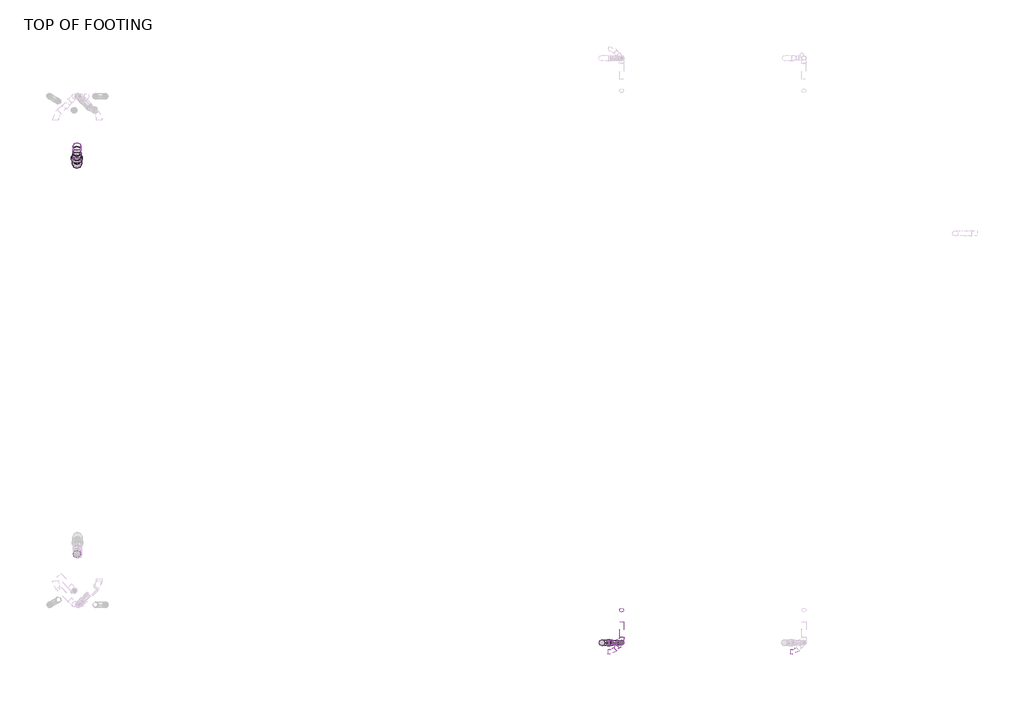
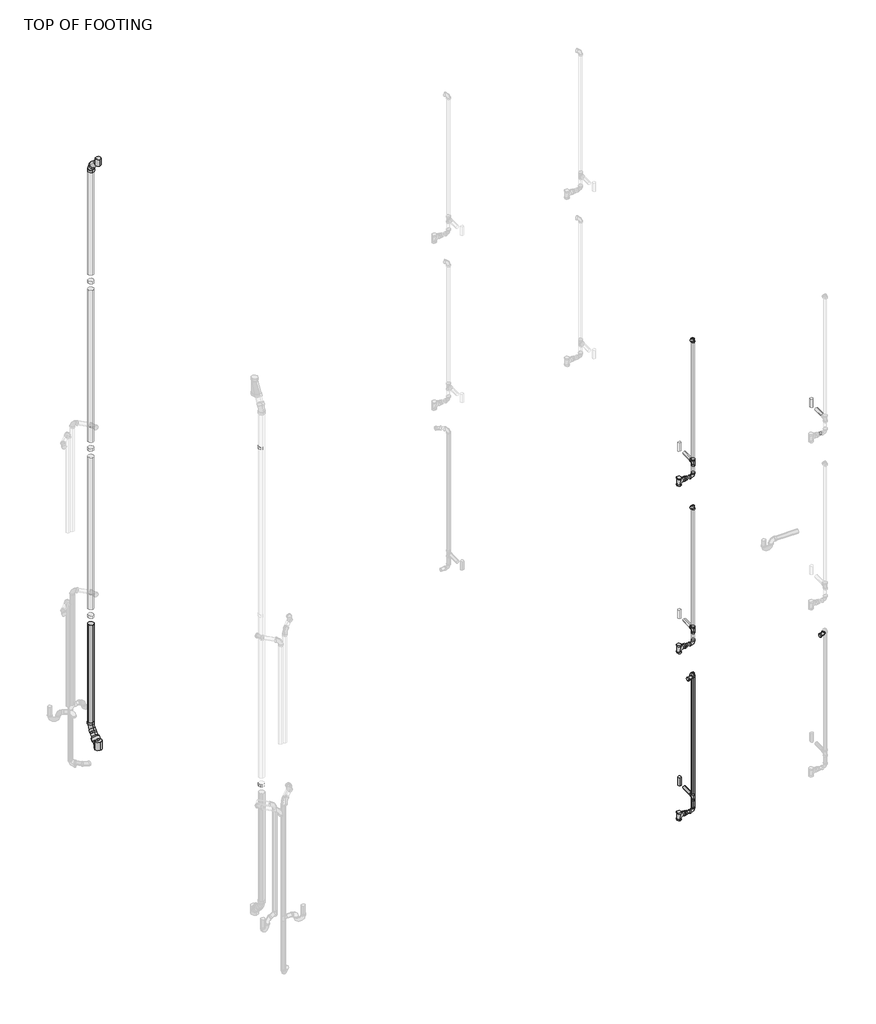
# One storey, part 3 of 8: 30 pipe segments, 22 pipe fittings.
"""IFC4 building model written with IfcOpenShell, lengths in millimetres."""

from ifc_helpers import new_model, si_unit, point, frame, frame_2d, origin, place, context, project, spatial, circle_curve, trimmed, segment, composite_curve, outline, extrude, transform, mapped, element, save
from components import bend_pvc_sch_40_dwv_standard_35af41d9, bend_pvc_sch_40_dwv_standard_e4da6302, bend_pvc_sch_40_dwv_standard_c28c2be1, bend_pvc_sch_40_dwv_standard_db659cf1, pipe_tee_copper_k_e3b6c8a8, pipe_tee_copper_k_0c7b4938, reducer_pvc_sch_40_dwv_standard_b23fa098, reducer_pvc_sch_40_dwv_standard_f0f0b247, tee_sanitary_pvc_sch_40_dwv_standard_3578d342, tee_sanitary_pvc_sch_40_dwv_standard_32d7fc6d

model = new_model("IFC4")

# Units and contexts
model_context = context("Model", 3, world=origin())
ifc_project = project(units=[si_unit("LENGTHUNIT", "METRE", prefix="MILLI")], contexts=[model_context])

# Site, building, storey
site = spatial("IfcSite", under=ifc_project)
building = spatial("IfcBuilding", under=site)
storey = spatial("IfcBuildingStorey", under=building, Name="TOP OF FOOTING", Elevation=-762.0)

# Pipe fittings
placement = place(None, origin())
bend_pvc_sch_40_dwv_standard_shape = bend_pvc_sch_40_dwv_standard_35af41d9(model_context)
element("IfcPipeFitting", 1, ObjectType="Bend - PVC - Sch 40 - DWV : Standard", at=placement, inside=storey, context=model_context, shape_type="MappedRepresentation", body=[
    mapped(bend_pvc_sch_40_dwv_standard_shape, transform((8467.5209875, 2089.7012881, 337.3617935), x_axis=(0.0, 0.0, -1.0), y_axis=(1.0, 0.0, 0.0), z_axis=(0.0, -1.0, 0.0))),
])
element("IfcPipeFitting", 2, ObjectType="Bend - PVC - Sch 40 - DWV : Standard", at=placement, inside=storey, context=model_context, shape_type="MappedRepresentation", body=[
    mapped(bend_pvc_sch_40_dwv_standard_shape, transform((8467.5209875, 2089.7012881, 3182.1617935), x_axis=(0.0, 0.0, -1.0), y_axis=(1.0, 0.0, 0.0), z_axis=(0.0, -1.0, 0.0))),
])
element("IfcPipeFitting", 3, ObjectType="Bend - PVC - Sch 40 - DWV : Standard", at=placement, inside=storey, context=model_context, shape_type="MappedRepresentation", body=[
    mapped(bend_pvc_sch_40_dwv_standard_shape, transform((8467.5209875, 2089.7012881, 6026.9617935), x_axis=(0.0, 0.0, -1.0), y_axis=(1.0, 0.0, 0.0), z_axis=(0.0, -1.0, 0.0))),
])
bend_pvc_sch_40_dwv_standard_2_shape = bend_pvc_sch_40_dwv_standard_e4da6302(model_context)
element("IfcPipeFitting", 4, ObjectType="Bend - PVC - Sch 40 - DWV : Standard", at=placement, inside=storey, context=model_context, shape_type="MappedRepresentation", body=[
    mapped(bend_pvc_sch_40_dwv_standard_2_shape, transform((8467.5337024, 2089.6991493, 2682.6265087), x_axis=(0.0, 0.0, 1.0), y_axis=(0.7070876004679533, 0.7071259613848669, 0.0), z_axis=(-0.7071259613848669, 0.7070876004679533, 0.0))),
])
element("IfcPipeFitting", 5, ObjectType="Bend - PVC - Sch 40 - DWV : Standard", at=placement, inside=storey, context=model_context, shape_type="MappedRepresentation", body=[
    mapped(bend_pvc_sch_40_dwv_standard_2_shape, transform((8467.5337024, 2089.6991493, 5527.4265087), x_axis=(0.0, 0.0, 1.0), y_axis=(0.7070876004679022, 0.7071259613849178, 0.0), z_axis=(-0.7071259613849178, 0.7070876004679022, 0.0))),
])
element("IfcPipeFitting", 6, ObjectType="Bend - PVC - Sch 40 - DWV : Standard", at=placement, inside=storey, context=model_context, shape_type="MappedRepresentation", body=[
    mapped(bend_pvc_sch_40_dwv_standard_2_shape, transform((8467.5302501, 2089.699846, 8371.9619664), x_axis=(0.0, 0.0, 1.0), y_axis=(0.7070876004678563, 0.7071259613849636, 0.0), z_axis=(-0.7071259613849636, 0.7070876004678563, 0.0))),
])
bend_pvc_sch_40_dwv_standard_3_shape = bend_pvc_sch_40_dwv_standard_c28c2be1(model_context)
element("IfcPipeFitting", 7, ObjectType="Bend - PVC - Sch 40 - DWV : Standard", at=placement, inside=storey, context=model_context, shape_type="MappedRepresentation", body=[
    mapped(bend_pvc_sch_40_dwv_standard_3_shape, transform((8359.7743364, 1981.9339371, 2683.7490021), x_axis=(-0.7070684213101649, -0.7071067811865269, 0.007365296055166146), y_axis=(0.7070684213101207, -0.7071067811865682, -0.007365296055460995), z_axis=(0.01041610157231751, 0.0, 0.9999457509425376))),
])
element("IfcPipeFitting", 8, ObjectType="Bend - PVC - Sch 40 - DWV : Standard", at=placement, inside=storey, context=model_context, shape_type="MappedRepresentation", body=[
    mapped(bend_pvc_sch_40_dwv_standard_3_shape, transform((10488.1493364, 1981.9339371, 2683.7490021), x_axis=(-0.7070684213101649, -0.7071067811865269, 0.007365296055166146), y_axis=(0.7070684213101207, -0.7071067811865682, -0.007365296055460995), z_axis=(0.01041610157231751, 0.0, 0.9999457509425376))),
])
bend_pvc_sch_40_dwv_standard_4_shape = bend_pvc_sch_40_dwv_standard_db659cf1(model_context)
element("IfcPipeFitting", 9, ObjectType="Bend - PVC - Sch 40 - DWV : Standard", at=placement, inside=storey, context=model_context, shape_type="MappedRepresentation", body=[
    mapped(bend_pvc_sch_40_dwv_standard_4_shape, transform((2111.7559337, 7876.8887644, 10015.6880691), x_axis=(0.0, 0.0, 1.0), y_axis=(0.0, -1.0, 0.0), z_axis=(1.0, 0.0, 0.0))),
])
element("IfcPipeFitting", 10, ObjectType="Bend - PVC - Sch 40 - DWV : Standard", at=placement, inside=storey, context=model_context, shape_type="MappedRepresentation", body=[
    mapped(bend_pvc_sch_40_dwv_standard_4_shape, transform((2111.7559337, 7876.8887644, 488.9445189), x_axis=(0.0, 0.0, -1.0), y_axis=(0.0, -1.0, 0.0), z_axis=(-1.0, 0.0, 0.0))),
])
pipe_tee_copper_k_shape = pipe_tee_copper_k_e3b6c8a8(model_context)
element("IfcPipeFitting", 11, ObjectType="Pipe Tee : Copper- K", at=placement, inside=storey, context=model_context, shape_type="MappedRepresentation", body=[
    mapped(pipe_tee_copper_k_shape, transform((2111.7559337, 7679.2137881, 10213.3630455), x_axis=(0.0, 0.0, 1.0), y_axis=(0.0, -1.0, 0.0), z_axis=(1.0, 0.0, 0.0))),
])
pipe_tee_copper_k_2_shape = pipe_tee_copper_k_0c7b4938(model_context)
element("IfcPipeFitting", 12, ObjectType="Pipe Tee : Copper- K", at=placement, inside=storey, context=model_context, shape_type="MappedRepresentation", body=[
    mapped(pipe_tee_copper_k_2_shape, transform((2111.7565355, 7679.2137881, 291.2695425), x_axis=(-6.123351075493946e-08, 0.0, 0.9999999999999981), y_axis=(-6.12335107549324e-08, -0.9999999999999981, 0.0), z_axis=(0.9999999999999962, -6.123351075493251e-08, 6.123351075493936e-08))),
])
reducer_pvc_sch_40_dwv_standard_shape = reducer_pvc_sch_40_dwv_standard_b23fa098(model_context)
element("IfcPipeFitting", 13, ObjectType="Reducer - PVC - Sch 40 - DWV : Standard", at=placement, inside=storey, context=model_context, shape_type="MappedRepresentation", body=[
    mapped(reducer_pvc_sch_40_dwv_standard_shape, transform((8316.7859401, 2089.7012881, 337.3617935), x_axis=(1.0, 0.0, 0.0), y_axis=(0.0, 1.0, 0.0), z_axis=(0.0, 0.0, 1.0))),
])
element("IfcPipeFitting", 14, ObjectType="Reducer - PVC - Sch 40 - DWV : Standard", at=placement, inside=storey, context=model_context, shape_type="MappedRepresentation", body=[
    mapped(reducer_pvc_sch_40_dwv_standard_shape, transform((8316.7859401, 2089.7012881, 3182.1617935), x_axis=(1.0, 0.0, 0.0), y_axis=(0.0, 1.0, 0.0), z_axis=(0.0, 0.0, 1.0))),
])
element("IfcPipeFitting", 15, ObjectType="Reducer - PVC - Sch 40 - DWV : Standard", at=placement, inside=storey, context=model_context, shape_type="MappedRepresentation", body=[
    mapped(reducer_pvc_sch_40_dwv_standard_shape, transform((8316.7859401, 2089.7012881, 6026.9617935), x_axis=(1.0, 0.0, 0.0), y_axis=(0.0, 1.0, 0.0), z_axis=(0.0, 0.0, 1.0))),
])
reducer_pvc_sch_40_dwv_standard_2_shape = reducer_pvc_sch_40_dwv_standard_f0f0b247(model_context)
element("IfcPipeFitting", 16, ObjectType="Reducer - PVC - Sch 40 - DWV : Standard", at=placement, inside=storey, context=model_context, shape_type="MappedRepresentation", body=[
    mapped(reducer_pvc_sch_40_dwv_standard_2_shape, transform((2111.7565355, 7727.4826647, 339.5384191), x_axis=(0.0, 0.7071067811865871, 0.7071067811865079), y_axis=(-0.9999999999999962, 6.12335121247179e-08, -6.123351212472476e-08), z_axis=(-8.659726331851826e-08, -0.7071067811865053, 0.7071067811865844))),
])
tee_sanitary_pvc_sch_40_dwv_standard_shape = tee_sanitary_pvc_sch_40_dwv_standard_3578d342(model_context)
element("IfcPipeFitting", 17, ObjectType="Tee Sanitary - PVC - Sch 40 - DWV : Standard", at=placement, inside=storey, context=model_context, shape_type="MappedRepresentation", body=[
    mapped(tee_sanitary_pvc_sch_40_dwv_standard_shape, transform((8467.5209875, 2089.7012881, 6267.6170389), x_axis=(0.0, 0.0, 1.0), y_axis=(0.0, 1.0, 0.0), z_axis=(-1.0, 0.0, 0.0))),
])
element("IfcPipeFitting", 18, ObjectType="Tee Sanitary - PVC - Sch 40 - DWV : Standard", at=placement, inside=storey, context=model_context, shape_type="MappedRepresentation", body=[
    mapped(tee_sanitary_pvc_sch_40_dwv_standard_shape, transform((8467.5209875, 2089.7012881, 3422.8170389), x_axis=(0.0, 0.0, 1.0), y_axis=(0.0, 1.0, 0.0), z_axis=(-1.0, 0.0, 0.0))),
])
element("IfcPipeFitting", 19, ObjectType="Tee Sanitary - PVC - Sch 40 - DWV : Standard", at=placement, inside=storey, context=model_context, shape_type="MappedRepresentation", body=[
    mapped(tee_sanitary_pvc_sch_40_dwv_standard_shape, transform((8467.5209875, 2089.7012881, 578.0170389), x_axis=(0.0, 0.0, 1.0), y_axis=(0.0, 1.0, 0.0), z_axis=(-1.0, 0.0, 0.0))),
])
tee_sanitary_pvc_sch_40_dwv_standard_2_shape = tee_sanitary_pvc_sch_40_dwv_standard_32d7fc6d(model_context)
element("IfcPipeFitting", 20, ObjectType="Tee Sanitary - PVC - Sch 40 - DWV : Standard", at=placement, inside=storey, context=model_context, shape_type="MappedRepresentation", body=[
    mapped(tee_sanitary_pvc_sch_40_dwv_standard_2_shape, transform((8238.7396365, 2089.8941393, 337.3617935), x_axis=(0.0, 0.0, 1.0), y_axis=(1.0, 0.0, 0.0), z_axis=(0.0, 1.0, 0.0))),
])
element("IfcPipeFitting", 21, ObjectType="Tee Sanitary - PVC - Sch 40 - DWV : Standard", at=placement, inside=storey, context=model_context, shape_type="MappedRepresentation", body=[
    mapped(tee_sanitary_pvc_sch_40_dwv_standard_2_shape, transform((8238.7396365, 2089.8941393, 3182.1617935), x_axis=(0.0, 0.0, 1.0), y_axis=(1.0, 0.0, 0.0), z_axis=(0.0, 1.0, 0.0))),
])
element("IfcPipeFitting", 22, ObjectType="Tee Sanitary - PVC - Sch 40 - DWV : Standard", at=placement, inside=storey, context=model_context, shape_type="MappedRepresentation", body=[
    mapped(tee_sanitary_pvc_sch_40_dwv_standard_2_shape, transform((8238.7396365, 2089.8941393, 6026.9617935), x_axis=(0.0, 0.0, 1.0), y_axis=(1.0, 0.0, 0.0), z_axis=(0.0, 1.0, 0.0))),
])

# Pipe segments
element("IfcPipeSegment", 23, ObjectType="PVC - SAN/STORM", at=placement, inside=storey, context=model_context, shape_type="SweptSolid", body=[
    extrude(outline(composite_curve([segment(trimmed(circle_curve(frame_2d((0.0, -24.13)), 24.13), [point((-24.13, -24.13))], [point((0.0, 0.0))], False, "CARTESIAN"), True, "CONTINUOUS"), segment(trimmed(circle_curve(frame_2d((0.0, -24.13)), 24.13), [point((0.0, 0.0))], [point((24.13, -24.13))], False, "CARTESIAN"), True, "CONTINUOUS"), segment(trimmed(circle_curve(frame_2d((0.0, -24.13)), 24.13), [point((24.13, -24.13))], [point((0.0, -48.2600001))], False, "CARTESIAN"), True, "CONTINUOUS"), segment(trimmed(circle_curve(frame_2d((0.0, -24.13)), 24.13), [point((0.0, -48.2600001))], [point((-24.13, -24.13))], False, "CARTESIAN"), True, "CONTINUOUS")], self_intersect=False)), frame((8467.5209875, 2151.8490706, 6244.1331025), z_axis=(0.0, 0.9999457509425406, 0.010416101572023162), x_axis=(1.0, 0.0, 0.0)), (0.0, 0.0, 1.0), 182.6011639),
])
element("IfcPipeSegment", 24, ObjectType="PVC - SAN/STORM", at=placement, inside=storey, context=model_context, shape_type="SweptSolid", body=[
    extrude(outline(composite_curve([segment(trimmed(circle_curve(frame_2d((8467.5209875, 2469.1137881)), 24.13), [point((8443.3909875, 2469.1137881))], [point((8467.5209875, 2493.2437881))], False, "CARTESIAN"), True, "CONTINUOUS"), segment(trimmed(circle_curve(frame_2d((8467.5209875, 2469.1137881)), 24.13), [point((8467.5209875, 2493.2437881))], [point((8491.6509875, 2469.1137881))], False, "CARTESIAN"), True, "CONTINUOUS"), segment(trimmed(circle_curve(frame_2d((8467.5209875, 2469.1137881)), 24.13), [point((8491.6509875, 2469.1137881))], [point((8467.5209875, 2444.9837881))], False, "CARTESIAN"), True, "CONTINUOUS"), segment(trimmed(circle_curve(frame_2d((8467.5209875, 2469.1137881)), 24.13), [point((8467.5209875, 2444.9837881))], [point((8443.3909875, 2469.1137881))], False, "CARTESIAN"), True, "CONTINUOUS")], self_intersect=False)), frame((0.0, 0.0, 6225.7010858), z_axis=(0.0, 0.0, 1.0), x_axis=(1.0, 0.0, 0.0)), (0.0, 0.0, 1.0), 139.7),
])
element("IfcPipeSegment", 25, ObjectType="PVC - SAN/STORM", at=placement, inside=storey, context=model_context, shape_type="SweptSolid", body=[
    extrude(outline(composite_curve([segment(trimmed(circle_curve(frame_2d((2089.7012881, 6026.9617935)), 24.13), [point((2113.8312881, 6026.9617935))], [point((2089.7012881, 6002.8317935))], False, "CARTESIAN"), True, "CONTINUOUS"), segment(trimmed(circle_curve(frame_2d((2089.7012881, 6026.9617935)), 24.13), [point((2089.7012881, 6002.8317935))], [point((2065.5712881, 6026.9617935))], False, "CARTESIAN"), True, "CONTINUOUS"), segment(trimmed(circle_curve(frame_2d((2089.7012881, 6026.9617935)), 24.13), [point((2065.5712881, 6026.9617935))], [point((2089.7012881, 6051.0917935))], False, "CARTESIAN"), True, "CONTINUOUS"), segment(trimmed(circle_curve(frame_2d((2089.7012881, 6026.9617935)), 24.13), [point((2089.7012881, 6051.0917935))], [point((2113.8312881, 6026.9617935))], False, "CARTESIAN"), True, "CONTINUOUS")], self_intersect=False)), frame((8366.7731401, 0.0, 0.0), z_axis=(1.0, 0.0, 0.0), x_axis=(0.0, 1.0, 0.0)), (0.0, 0.0, 1.0), 38.8480474),
])
element("IfcPipeSegment", 26, ObjectType="PVC - SAN/STORM", at=placement, inside=storey, context=model_context, shape_type="SweptSolid", body=[
    extrude(outline(composite_curve([segment(trimmed(circle_curve(frame_2d((8467.5209875, 2089.7012881)), 24.13), [point((8491.6509875, 2089.7012881))], [point((8467.5209875, 2065.5712881))], False, "CARTESIAN"), True, "CONTINUOUS"), segment(trimmed(circle_curve(frame_2d((8467.5209875, 2089.7012881)), 24.13), [point((8467.5209875, 2065.5712881))], [point((8443.3909875, 2089.7012881))], False, "CARTESIAN"), True, "CONTINUOUS"), segment(trimmed(circle_curve(frame_2d((8467.5209875, 2089.7012881)), 24.13), [point((8443.3909875, 2089.7012881))], [point((8467.5209875, 2113.8312881))], False, "CARTESIAN"), True, "CONTINUOUS"), segment(trimmed(circle_curve(frame_2d((8467.5209875, 2089.7012881)), 24.13), [point((8467.5209875, 2113.8312881))], [point((8491.6509875, 2089.7012881))], False, "CARTESIAN"), True, "CONTINUOUS")], self_intersect=False)), frame((0.0, 0.0, 6088.8615935), z_axis=(0.0, 0.0, 1.0), x_axis=(1.0, 0.0, 0.0)), (0.0, 0.0, 1.0), 116.8556454),
])
element("IfcPipeSegment", 27, ObjectType="PVC - SAN/STORM", at=placement, inside=storey, context=model_context, shape_type="SweptSolid", body=[
    extrude(outline(composite_curve([segment(trimmed(circle_curve(frame_2d((0.0, 24.13)), 24.13), [point((-24.13, 24.13))], [point((0.0, 48.26))], False, "CARTESIAN"), True, "CONTINUOUS"), segment(trimmed(circle_curve(frame_2d((0.0, 24.13)), 24.13), [point((0.0, 48.26))], [point((24.13, 24.13))], False, "CARTESIAN"), True, "CONTINUOUS"), segment(trimmed(circle_curve(frame_2d((0.0, 24.13)), 24.13), [point((24.13, 24.13))], [point((0.0, 0.0))], False, "CARTESIAN"), True, "CONTINUOUS"), segment(trimmed(circle_curve(frame_2d((0.0, 24.13)), 24.13), [point((0.0, 0.0))], [point((-24.13, 24.13))], False, "CARTESIAN"), True, "CONTINUOUS")], self_intersect=False)), frame((8467.5209875, 2065.5712881, 6313.8111829), z_axis=(4.640019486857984e-06, -7.223967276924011e-07, 0.9999999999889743), x_axis=(0.9999999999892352, 3.3519853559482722e-12, -4.640019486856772e-06)), (0.0, 0.0, 1.0), 1996.2509661),
])
element("IfcPipeSegment", 28, ObjectType="PVC - SAN/STORM", at=placement, inside=storey, context=model_context, shape_type="SweptSolid", body=[
    extrude(outline(composite_curve([segment(trimmed(circle_curve(frame_2d((0.0, -24.13)), 24.13), [point((-24.13, -24.13))], [point((0.0, 0.0))], False, "CARTESIAN"), True, "CONTINUOUS"), segment(trimmed(circle_curve(frame_2d((0.0, -24.13)), 24.13), [point((0.0, 0.0))], [point((24.13, -24.13))], False, "CARTESIAN"), True, "CONTINUOUS"), segment(trimmed(circle_curve(frame_2d((0.0, -24.13)), 24.13), [point((24.13, -24.13))], [point((0.0, -48.2600001))], False, "CARTESIAN"), True, "CONTINUOUS"), segment(trimmed(circle_curve(frame_2d((0.0, -24.13)), 24.13), [point((0.0, -48.2600001))], [point((-24.13, -24.13))], False, "CARTESIAN"), True, "CONTINUOUS")], self_intersect=False)), frame((8467.5209875, 2151.8490706, 3399.3331025), z_axis=(0.0, 0.9999457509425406, 0.010416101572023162), x_axis=(1.0, 0.0, 0.0)), (0.0, 0.0, 1.0), 182.6011639),
])
element("IfcPipeSegment", 29, ObjectType="PVC - SAN/STORM", at=placement, inside=storey, context=model_context, shape_type="SweptSolid", body=[
    extrude(outline(composite_curve([segment(trimmed(circle_curve(frame_2d((8467.5209875, 2469.1137881)), 24.13), [point((8443.3909875, 2469.1137881))], [point((8467.5209875, 2493.2437881))], False, "CARTESIAN"), True, "CONTINUOUS"), segment(trimmed(circle_curve(frame_2d((8467.5209875, 2469.1137881)), 24.13), [point((8467.5209875, 2493.2437881))], [point((8491.6509875, 2469.1137881))], False, "CARTESIAN"), True, "CONTINUOUS"), segment(trimmed(circle_curve(frame_2d((8467.5209875, 2469.1137881)), 24.13), [point((8491.6509875, 2469.1137881))], [point((8467.5209875, 2444.9837881))], False, "CARTESIAN"), True, "CONTINUOUS"), segment(trimmed(circle_curve(frame_2d((8467.5209875, 2469.1137881)), 24.13), [point((8467.5209875, 2444.9837881))], [point((8443.3909875, 2469.1137881))], False, "CARTESIAN"), True, "CONTINUOUS")], self_intersect=False)), frame((0.0, 0.0, 3380.9010858), z_axis=(0.0, 0.0, 1.0), x_axis=(1.0, 0.0, 0.0)), (0.0, 0.0, 1.0), 139.7),
])
element("IfcPipeSegment", 30, ObjectType="PVC - SAN/STORM", at=placement, inside=storey, context=model_context, shape_type="SweptSolid", body=[
    extrude(outline(composite_curve([segment(trimmed(circle_curve(frame_2d((2089.7012881, 3182.1617935)), 24.13), [point((2113.8312881, 3182.1617935))], [point((2089.7012881, 3158.0317935))], False, "CARTESIAN"), True, "CONTINUOUS"), segment(trimmed(circle_curve(frame_2d((2089.7012881, 3182.1617935)), 24.13), [point((2089.7012881, 3158.0317935))], [point((2065.5712881, 3182.1617935))], False, "CARTESIAN"), True, "CONTINUOUS"), segment(trimmed(circle_curve(frame_2d((2089.7012881, 3182.1617935)), 24.13), [point((2065.5712881, 3182.1617935))], [point((2089.7012881, 3206.2917935))], False, "CARTESIAN"), True, "CONTINUOUS"), segment(trimmed(circle_curve(frame_2d((2089.7012881, 3182.1617935)), 24.13), [point((2089.7012881, 3206.2917935))], [point((2113.8312881, 3182.1617935))], False, "CARTESIAN"), True, "CONTINUOUS")], self_intersect=False)), frame((8366.7731401, 0.0, 0.0), z_axis=(1.0, 0.0, 0.0), x_axis=(0.0, 1.0, 0.0)), (0.0, 0.0, 1.0), 38.8480474),
])
element("IfcPipeSegment", 31, ObjectType="PVC - SAN/STORM", at=placement, inside=storey, context=model_context, shape_type="SweptSolid", body=[
    extrude(outline(composite_curve([segment(trimmed(circle_curve(frame_2d((8467.5209875, 2089.7012881)), 24.13), [point((8491.6509875, 2089.7012881))], [point((8467.5209875, 2065.5712881))], False, "CARTESIAN"), True, "CONTINUOUS"), segment(trimmed(circle_curve(frame_2d((8467.5209875, 2089.7012881)), 24.13), [point((8467.5209875, 2065.5712881))], [point((8443.3909875, 2089.7012881))], False, "CARTESIAN"), True, "CONTINUOUS"), segment(trimmed(circle_curve(frame_2d((8467.5209875, 2089.7012881)), 24.13), [point((8443.3909875, 2089.7012881))], [point((8467.5209875, 2113.8312881))], False, "CARTESIAN"), True, "CONTINUOUS"), segment(trimmed(circle_curve(frame_2d((8467.5209875, 2089.7012881)), 24.13), [point((8467.5209875, 2113.8312881))], [point((8491.6509875, 2089.7012881))], False, "CARTESIAN"), True, "CONTINUOUS")], self_intersect=False)), frame((0.0, 0.0, 3244.0615935), z_axis=(0.0, 0.0, 1.0), x_axis=(1.0, 0.0, 0.0)), (0.0, 0.0, 1.0), 116.8556454),
])
element("IfcPipeSegment", 32, ObjectType="PVC - SAN/STORM", at=placement, inside=storey, context=model_context, shape_type="SweptSolid", body=[
    extrude(outline(composite_curve([segment(trimmed(circle_curve(frame_2d((0.0, 24.13)), 24.13), [point((-24.13, 24.13))], [point((0.0, 48.26))], False, "CARTESIAN"), True, "CONTINUOUS"), segment(trimmed(circle_curve(frame_2d((0.0, 24.13)), 24.13), [point((0.0, 48.26))], [point((24.13, 24.13))], False, "CARTESIAN"), True, "CONTINUOUS"), segment(trimmed(circle_curve(frame_2d((0.0, 24.13)), 24.13), [point((24.13, 24.13))], [point((0.0, 0.0))], False, "CARTESIAN"), True, "CONTINUOUS"), segment(trimmed(circle_curve(frame_2d((0.0, 24.13)), 24.13), [point((0.0, 0.0))], [point((-24.13, 24.13))], False, "CARTESIAN"), True, "CONTINUOUS")], self_intersect=False)), frame((8467.5209875, 2065.5712881, 3469.0111745), z_axis=(6.368583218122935e-06, -1.0712312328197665e-06, 0.9999999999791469), x_axis=(0.9999999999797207, 6.822098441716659e-12, -6.368583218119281e-06)), (0.0, 0.0, 1.0), 1996.5155084),
])
element("IfcPipeSegment", 33, ObjectType="PVC - SAN/STORM", at=placement, inside=storey, context=model_context, shape_type="SweptSolid", body=[
    extrude(outline(composite_curve([segment(trimmed(circle_curve(frame_2d((0.0, -24.13)), 24.13), [point((-24.13, -24.13))], [point((0.0, 0.0))], False, "CARTESIAN"), True, "CONTINUOUS"), segment(trimmed(circle_curve(frame_2d((0.0, -24.13)), 24.13), [point((0.0, 0.0))], [point((24.13, -24.13))], False, "CARTESIAN"), True, "CONTINUOUS"), segment(trimmed(circle_curve(frame_2d((0.0, -24.13)), 24.13), [point((24.13, -24.13))], [point((0.0, -48.2600001))], False, "CARTESIAN"), True, "CONTINUOUS"), segment(trimmed(circle_curve(frame_2d((0.0, -24.13)), 24.13), [point((0.0, -48.2600001))], [point((-24.13, -24.13))], False, "CARTESIAN"), True, "CONTINUOUS")], self_intersect=False)), frame((8467.5209875, 2151.8490706, 554.5331025), z_axis=(0.0, 0.9999457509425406, 0.010416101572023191), x_axis=(1.0, 0.0, 0.0)), (0.0, 0.0, 1.0), 182.6011639),
])
element("IfcPipeSegment", 34, ObjectType="PVC - SAN/STORM", at=placement, inside=storey, context=model_context, shape_type="SweptSolid", body=[
    extrude(outline(composite_curve([segment(trimmed(circle_curve(frame_2d((8467.5209875, 2469.1137881)), 24.13), [point((8443.3909875, 2469.1137881))], [point((8467.5209875, 2493.2437881))], False, "CARTESIAN"), True, "CONTINUOUS"), segment(trimmed(circle_curve(frame_2d((8467.5209875, 2469.1137881)), 24.13), [point((8467.5209875, 2493.2437881))], [point((8491.6509875, 2469.1137881))], False, "CARTESIAN"), True, "CONTINUOUS"), segment(trimmed(circle_curve(frame_2d((8467.5209875, 2469.1137881)), 24.13), [point((8491.6509875, 2469.1137881))], [point((8467.5209875, 2444.9837881))], False, "CARTESIAN"), True, "CONTINUOUS"), segment(trimmed(circle_curve(frame_2d((8467.5209875, 2469.1137881)), 24.13), [point((8467.5209875, 2444.9837881))], [point((8443.3909875, 2469.1137881))], False, "CARTESIAN"), True, "CONTINUOUS")], self_intersect=False)), frame((0.0, 0.0, 536.1010858), z_axis=(0.0, 0.0, 1.0), x_axis=(1.0, 0.0, 0.0)), (0.0, 0.0, 1.0), 139.7),
])
element("IfcPipeSegment", 35, ObjectType="PVC - SAN/STORM", at=placement, inside=storey, context=model_context, shape_type="SweptSolid", body=[
    extrude(outline(composite_curve([segment(trimmed(circle_curve(frame_2d((2089.7012881, 337.3617935)), 24.13), [point((2113.8312881, 337.3617935))], [point((2089.7012881, 313.2317935))], False, "CARTESIAN"), True, "CONTINUOUS"), segment(trimmed(circle_curve(frame_2d((2089.7012881, 337.3617935)), 24.13), [point((2089.7012881, 313.2317935))], [point((2065.5712881, 337.3617935))], False, "CARTESIAN"), True, "CONTINUOUS"), segment(trimmed(circle_curve(frame_2d((2089.7012881, 337.3617935)), 24.13), [point((2065.5712881, 337.3617935))], [point((2089.7012881, 361.4917935))], False, "CARTESIAN"), True, "CONTINUOUS"), segment(trimmed(circle_curve(frame_2d((2089.7012881, 337.3617935)), 24.13), [point((2089.7012881, 361.4917935))], [point((2113.8312881, 337.3617935))], False, "CARTESIAN"), True, "CONTINUOUS")], self_intersect=False)), frame((8366.7731401, 0.0, 0.0), z_axis=(1.0, 0.0, 0.0), x_axis=(0.0, 1.0, 0.0)), (0.0, 0.0, 1.0), 38.8480474),
])
element("IfcPipeSegment", 36, ObjectType="PVC - SAN/STORM", at=placement, inside=storey, context=model_context, shape_type="SweptSolid", body=[
    extrude(outline(composite_curve([segment(trimmed(circle_curve(frame_2d((8467.5209875, 2089.7012881)), 24.13), [point((8491.6509875, 2089.7012881))], [point((8467.5209875, 2065.5712881))], False, "CARTESIAN"), True, "CONTINUOUS"), segment(trimmed(circle_curve(frame_2d((8467.5209875, 2089.7012881)), 24.13), [point((8467.5209875, 2065.5712881))], [point((8443.3909875, 2089.7012881))], False, "CARTESIAN"), True, "CONTINUOUS"), segment(trimmed(circle_curve(frame_2d((8467.5209875, 2089.7012881)), 24.13), [point((8443.3909875, 2089.7012881))], [point((8467.5209875, 2113.8312881))], False, "CARTESIAN"), True, "CONTINUOUS"), segment(trimmed(circle_curve(frame_2d((8467.5209875, 2089.7012881)), 24.13), [point((8467.5209875, 2113.8312881))], [point((8491.6509875, 2089.7012881))], False, "CARTESIAN"), True, "CONTINUOUS")], self_intersect=False)), frame((0.0, 0.0, 399.2615935), z_axis=(0.0, 0.0, 1.0), x_axis=(1.0, 0.0, 0.0)), (0.0, 0.0, 1.0), 116.8556454),
])
element("IfcPipeSegment", 37, ObjectType="PVC - SAN/STORM", at=placement, inside=storey, context=model_context, shape_type="SweptSolid", body=[
    extrude(outline(composite_curve([segment(trimmed(circle_curve(frame_2d((0.0, 24.13)), 24.13), [point((-24.13, 24.13))], [point((0.0, 48.26))], False, "CARTESIAN"), True, "CONTINUOUS"), segment(trimmed(circle_curve(frame_2d((0.0, 24.13)), 24.13), [point((0.0, 48.26))], [point((24.13, 24.13))], False, "CARTESIAN"), True, "CONTINUOUS"), segment(trimmed(circle_curve(frame_2d((0.0, 24.13)), 24.13), [point((24.13, 24.13))], [point((0.0, 0.0))], False, "CARTESIAN"), True, "CONTINUOUS"), segment(trimmed(circle_curve(frame_2d((0.0, 24.13)), 24.13), [point((0.0, 0.0))], [point((-24.13, 24.13))], False, "CARTESIAN"), True, "CONTINUOUS")], self_intersect=False)), frame((8467.5209875, 2065.5712881, 624.2111745), z_axis=(6.3685832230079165e-06, -1.0712312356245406e-06, 0.9999999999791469), x_axis=(0.9999999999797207, 6.822098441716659e-12, -6.368583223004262e-06)), (0.0, 0.0, 1.0), 1996.5155084),
])
element("IfcPipeSegment", 38, ObjectType="PVC - SAN/STORM", at=placement, inside=storey, context=model_context, shape_type="SweptSolid", body=[
    extrude(outline(composite_curve([segment(trimmed(circle_curve(frame_2d((0.0, 24.1300001)), 24.13), [point((-24.1293456, 24.3077102))], [point((0.1777101, 48.2593457))], False, "CARTESIAN"), True, "CONTINUOUS"), segment(trimmed(circle_curve(frame_2d((0.0, 24.1300001)), 24.13), [point((0.1777101, 48.2593457))], [point((24.1293456, 23.95229))], False, "CARTESIAN"), True, "CONTINUOUS"), segment(trimmed(circle_curve(frame_2d((0.0, 24.1300001)), 24.13), [point((24.1293456, 23.95229))], [point((-0.1777101, 0.0006545))], False, "CARTESIAN"), True, "CONTINUOUS"), segment(trimmed(circle_curve(frame_2d((0.0, 24.1300001)), 24.13), [point((-0.1777101, 0.0006545))], [point((-24.1293456, 24.3077102))], False, "CARTESIAN"), True, "CONTINUOUS")], self_intersect=False)), frame((8423.7663086, 2045.6780541, 2658.9537279), z_axis=(-0.707068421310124, -0.7071067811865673, 0.00736529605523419), x_axis=(0.707145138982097, -0.7070300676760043, 0.0073644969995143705)), (0.0, 0.0, 1.0), 44.4784246),
])
element("IfcPipeSegment", 39, ObjectType="PVC - SAN/STORM", at=placement, inside=storey, context=model_context, shape_type="SweptSolid", body=[
    extrude(outline(composite_curve([segment(trimmed(circle_curve(frame_2d((0.0, -24.13)), 24.13), [point((-24.13, -24.13))], [point((0.0, 0.0))], False, "CARTESIAN"), True, "CONTINUOUS"), segment(trimmed(circle_curve(frame_2d((0.0, -24.13)), 24.13), [point((0.0, 0.0))], [point((24.13, -24.13))], False, "CARTESIAN"), True, "CONTINUOUS"), segment(trimmed(circle_curve(frame_2d((0.0, -24.13)), 24.13), [point((24.13, -24.13))], [point((0.0, -48.2600001))], False, "CARTESIAN"), True, "CONTINUOUS"), segment(trimmed(circle_curve(frame_2d((0.0, -24.13)), 24.13), [point((0.0, -48.2600001))], [point((-24.13, -24.13))], False, "CARTESIAN"), True, "CONTINUOUS")], self_intersect=False)), frame((10595.8959875, 2151.8490706, 6244.1331025), z_axis=(0.0, 0.9999457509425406, 0.010416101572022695), x_axis=(1.0, 0.0, 0.0)), (0.0, 0.0, 1.0), 182.6011639),
])
element("IfcPipeSegment", 40, ObjectType="PVC - SAN/STORM", at=placement, inside=storey, context=model_context, shape_type="SweptSolid", body=[
    extrude(outline(composite_curve([segment(trimmed(circle_curve(frame_2d((10595.8959875, 2469.1137881)), 24.13), [point((10571.7659875, 2469.1137881))], [point((10595.8959875, 2493.2437881))], False, "CARTESIAN"), True, "CONTINUOUS"), segment(trimmed(circle_curve(frame_2d((10595.8959875, 2469.1137881)), 24.13), [point((10595.8959875, 2493.2437881))], [point((10620.0259875, 2469.1137881))], False, "CARTESIAN"), True, "CONTINUOUS"), segment(trimmed(circle_curve(frame_2d((10595.8959875, 2469.1137881)), 24.13), [point((10620.0259875, 2469.1137881))], [point((10595.8959875, 2444.9837881))], False, "CARTESIAN"), True, "CONTINUOUS"), segment(trimmed(circle_curve(frame_2d((10595.8959875, 2469.1137881)), 24.13), [point((10595.8959875, 2444.9837881))], [point((10571.7659875, 2469.1137881))], False, "CARTESIAN"), True, "CONTINUOUS")], self_intersect=False)), frame((0.0, 0.0, 6225.7010858), z_axis=(0.0, 0.0, 1.0), x_axis=(1.0, 0.0, 0.0)), (0.0, 0.0, 1.0), 139.7),
])
element("IfcPipeSegment", 41, ObjectType="PVC - SAN/STORM", at=placement, inside=storey, context=model_context, shape_type="SweptSolid", body=[
    extrude(outline(composite_curve([segment(trimmed(circle_curve(frame_2d((2089.7012881, 6026.9617935)), 24.13), [point((2113.8312881, 6026.9617935))], [point((2089.7012881, 6002.8317935))], False, "CARTESIAN"), True, "CONTINUOUS"), segment(trimmed(circle_curve(frame_2d((2089.7012881, 6026.9617935)), 24.13), [point((2089.7012881, 6002.8317935))], [point((2065.5712881, 6026.9617935))], False, "CARTESIAN"), True, "CONTINUOUS"), segment(trimmed(circle_curve(frame_2d((2089.7012881, 6026.9617935)), 24.13), [point((2065.5712881, 6026.9617935))], [point((2089.7012881, 6051.0917935))], False, "CARTESIAN"), True, "CONTINUOUS"), segment(trimmed(circle_curve(frame_2d((2089.7012881, 6026.9617935)), 24.13), [point((2089.7012881, 6051.0917935))], [point((2113.8312881, 6026.9617935))], False, "CARTESIAN"), True, "CONTINUOUS")], self_intersect=False)), frame((10495.027675, 0.0, 0.0), z_axis=(1.0, 0.0, 0.0), x_axis=(0.0, 1.0, 0.0)), (0.0, 0.0, 1.0), 38.9685125),
])
element("IfcPipeSegment", 42, ObjectType="PVC - SAN/STORM", at=placement, inside=storey, context=model_context, shape_type="SweptSolid", body=[
    extrude(outline(composite_curve([segment(trimmed(circle_curve(frame_2d((2111.7559337, 7876.8887644)), 44.45), [point((2067.3059337, 7876.8887644))], [point((2111.7559337, 7921.3387644))], False, "CARTESIAN"), True, "CONTINUOUS"), segment(trimmed(circle_curve(frame_2d((2111.7559337, 7876.8887644)), 44.45), [point((2111.7559337, 7921.3387644))], [point((2156.2059337, 7876.8887644))], False, "CARTESIAN"), True, "CONTINUOUS"), segment(trimmed(circle_curve(frame_2d((2111.7559337, 7876.8887644)), 44.45), [point((2156.2059337, 7876.8887644))], [point((2111.7559337, 7832.4387644))], False, "CARTESIAN"), True, "CONTINUOUS"), segment(trimmed(circle_curve(frame_2d((2111.7559337, 7876.8887644)), 44.45), [point((2111.7559337, 7832.4387644))], [point((2067.3059337, 7876.8887644))], False, "CARTESIAN"), True, "CONTINUOUS")], self_intersect=False)), frame((0.0, 0.0, 8183.5625), z_axis=(0.0, 0.0, 1.0), x_axis=(1.0, 0.0, 0.0)), (0.0, 0.0, 1.0), 1749.5755691),
])
element("IfcPipeSegment", 43, ObjectType="PVC - SAN/STORM", at=placement, inside=storey, context=model_context, shape_type="SweptSolid", body=[
    extrude(outline(composite_curve([segment(trimmed(circle_curve(frame_2d((2111.7559337, 7876.8887644)), 44.45), [point((2067.3059337, 7876.8887644))], [point((2111.7559337, 7921.3387644))], False, "CARTESIAN"), True, "CONTINUOUS"), segment(trimmed(circle_curve(frame_2d((2111.7559337, 7876.8887644)), 44.45), [point((2111.7559337, 7921.3387644))], [point((2156.2059337, 7876.8887644))], False, "CARTESIAN"), True, "CONTINUOUS"), segment(trimmed(circle_curve(frame_2d((2111.7559337, 7876.8887644)), 44.45), [point((2156.2059337, 7876.8887644))], [point((2111.7559337, 7832.4387644))], False, "CARTESIAN"), True, "CONTINUOUS"), segment(trimmed(circle_curve(frame_2d((2111.7559337, 7876.8887644)), 44.45), [point((2111.7559337, 7832.4387644))], [point((2067.3059337, 7876.8887644))], False, "CARTESIAN"), True, "CONTINUOUS")], self_intersect=False)), frame((0.0, 0.0, 5186.3625), z_axis=(0.0, 0.0, 1.0), x_axis=(1.0, 0.0, 0.0)), (0.0, 0.0, 1.0), 41.275),
])
element("IfcPipeSegment", 44, ObjectType="PVC - SAN/STORM", at=placement, inside=storey, context=model_context, shape_type="SweptSolid", body=[
    extrude(outline(composite_curve([segment(trimmed(circle_curve(frame_2d((2111.7559337, 7876.8887644)), 44.45), [point((2156.2059337, 7876.8887644))], [point((2111.7559337, 7832.4387644))], False, "CARTESIAN"), True, "CONTINUOUS"), segment(trimmed(circle_curve(frame_2d((2111.7559337, 7876.8887644)), 44.45), [point((2111.7559337, 7832.4387644))], [point((2067.3059337, 7876.8887644))], False, "CARTESIAN"), True, "CONTINUOUS"), segment(trimmed(circle_curve(frame_2d((2111.7559337, 7876.8887644)), 44.45), [point((2067.3059337, 7876.8887644))], [point((2111.7559337, 7921.3387644))], False, "CARTESIAN"), True, "CONTINUOUS"), segment(trimmed(circle_curve(frame_2d((2111.7559337, 7876.8887644)), 44.45), [point((2111.7559337, 7921.3387644))], [point((2156.2059337, 7876.8887644))], False, "CARTESIAN"), True, "CONTINUOUS")], self_intersect=False)), frame((0.0, 0.0, 571.4945189), z_axis=(0.0, 0.0, 1.0), x_axis=(1.0, 0.0, 0.0)), (0.0, 0.0, 1.0), 1658.942067),
])
element("IfcPipeSegment", 45, ObjectType="PVC - SAN/STORM", at=placement, inside=storey, context=model_context, shape_type="SweptSolid", body=[
    extrude(outline(composite_curve([segment(trimmed(circle_curve(frame_2d((2111.7559337, 7876.8887644)), 44.45), [point((2067.3059337, 7876.8887644))], [point((2111.7559337, 7921.3387644))], False, "CARTESIAN"), True, "CONTINUOUS"), segment(trimmed(circle_curve(frame_2d((2111.7559337, 7876.8887644)), 44.45), [point((2111.7559337, 7921.3387644))], [point((2156.2059337, 7876.8887644))], False, "CARTESIAN"), True, "CONTINUOUS"), segment(trimmed(circle_curve(frame_2d((2111.7559337, 7876.8887644)), 44.45), [point((2156.2059337, 7876.8887644))], [point((2111.7559337, 7832.4387644))], False, "CARTESIAN"), True, "CONTINUOUS"), segment(trimmed(circle_curve(frame_2d((2111.7559337, 7876.8887644)), 44.45), [point((2111.7559337, 7832.4387644))], [point((2067.3059337, 7876.8887644))], False, "CARTESIAN"), True, "CONTINUOUS")], self_intersect=False)), frame((0.0, 0.0, 2494.3252068), z_axis=(0.0, 0.0, 1.0), x_axis=(1.0, 0.0, 0.0)), (0.0, 0.0, 1.0), 2580.9122932),
])
element("IfcPipeSegment", 46, ObjectType="PVC - SAN/STORM", at=placement, inside=storey, context=model_context, shape_type="SweptSolid", body=[
    extrude(outline(composite_curve([segment(trimmed(circle_curve(frame_2d((2111.7559337, 7876.8887644)), 44.45), [point((2067.3059337, 7876.8887644))], [point((2111.7559337, 7921.3387644))], False, "CARTESIAN"), True, "CONTINUOUS"), segment(trimmed(circle_curve(frame_2d((2111.7559337, 7876.8887644)), 44.45), [point((2111.7559337, 7921.3387644))], [point((2156.2059337, 7876.8887644))], False, "CARTESIAN"), True, "CONTINUOUS"), segment(trimmed(circle_curve(frame_2d((2111.7559337, 7876.8887644)), 44.45), [point((2156.2059337, 7876.8887644))], [point((2111.7559337, 7832.4387644))], False, "CARTESIAN"), True, "CONTINUOUS"), segment(trimmed(circle_curve(frame_2d((2111.7559337, 7876.8887644)), 44.45), [point((2111.7559337, 7832.4387644))], [point((2067.3059337, 7876.8887644))], False, "CARTESIAN"), True, "CONTINUOUS")], self_intersect=False)), frame((0.0, 0.0, 2341.5615858), z_axis=(0.0, 0.0, 1.0), x_axis=(1.0, 0.0, 0.0)), (0.0, 0.0, 1.0), 41.638621),
])
element("IfcPipeSegment", 47, ObjectType="PVC - SAN/STORM", at=placement, inside=storey, context=model_context, shape_type="SweptSolid", body=[
    extrude(outline(composite_curve([segment(trimmed(circle_curve(frame_2d((2111.7559337, 7876.8887644)), 44.45), [point((2067.3059337, 7876.8887644))], [point((2111.7559337, 7921.3387644))], False, "CARTESIAN"), True, "CONTINUOUS"), segment(trimmed(circle_curve(frame_2d((2111.7559337, 7876.8887644)), 44.45), [point((2111.7559337, 7921.3387644))], [point((2156.2059337, 7876.8887644))], False, "CARTESIAN"), True, "CONTINUOUS"), segment(trimmed(circle_curve(frame_2d((2111.7559337, 7876.8887644)), 44.45), [point((2156.2059337, 7876.8887644))], [point((2111.7559337, 7832.4387644))], False, "CARTESIAN"), True, "CONTINUOUS"), segment(trimmed(circle_curve(frame_2d((2111.7559337, 7876.8887644)), 44.45), [point((2111.7559337, 7832.4387644))], [point((2067.3059337, 7876.8887644))], False, "CARTESIAN"), True, "CONTINUOUS")], self_intersect=False)), frame((0.0, 0.0, 5338.7625), z_axis=(0.0, 0.0, 1.0), x_axis=(1.0, 0.0, 0.0)), (0.0, 0.0, 1.0), 2581.275),
])
element("IfcPipeSegment", 48, ObjectType="PVC - SAN/STORM", at=placement, inside=storey, context=model_context, shape_type="SweptSolid", body=[
    extrude(outline(composite_curve([segment(trimmed(circle_curve(frame_2d((2111.7559337, 7876.8887644)), 44.45), [point((2067.3059337, 7876.8887644))], [point((2111.7559337, 7921.3387644))], False, "CARTESIAN"), True, "CONTINUOUS"), segment(trimmed(circle_curve(frame_2d((2111.7559337, 7876.8887644)), 44.45), [point((2111.7559337, 7921.3387644))], [point((2156.2059337, 7876.8887644))], False, "CARTESIAN"), True, "CONTINUOUS"), segment(trimmed(circle_curve(frame_2d((2111.7559337, 7876.8887644)), 44.45), [point((2156.2059337, 7876.8887644))], [point((2111.7559337, 7832.4387644))], False, "CARTESIAN"), True, "CONTINUOUS"), segment(trimmed(circle_curve(frame_2d((2111.7559337, 7876.8887644)), 44.45), [point((2111.7559337, 7832.4387644))], [point((2067.3059337, 7876.8887644))], False, "CARTESIAN"), True, "CONTINUOUS")], self_intersect=False)), frame((0.0, 0.0, 8031.1625), z_axis=(0.0, 0.0, 1.0), x_axis=(1.0, 0.0, 0.0)), (0.0, 0.0, 1.0), 41.275),
])
element("IfcPipeSegment", 49, ObjectType="PVC - SAN/STORM", at=placement, inside=storey, context=model_context, shape_type="SweptSolid", body=[
    extrude(outline(composite_curve([segment(trimmed(circle_curve(frame_2d((0.0, -44.45)), 44.45), [point((44.45, -44.45))], [point((0.0, -88.9))], False, "CARTESIAN"), True, "CONTINUOUS"), segment(trimmed(circle_curve(frame_2d((0.0, -44.45)), 44.45), [point((0.0, -88.9))], [point((-44.45, -44.45))], False, "CARTESIAN"), True, "CONTINUOUS"), segment(trimmed(circle_curve(frame_2d((0.0, -44.45)), 44.45), [point((-44.45, -44.45))], [point((0.0, 0.0))], False, "CARTESIAN"), True, "CONTINUOUS"), segment(trimmed(circle_curve(frame_2d((0.0, -44.45)), 44.45), [point((0.0, 0.0))], [point((44.45, -44.45))], False, "CARTESIAN"), True, "CONTINUOUS")], self_intersect=False)), frame((2111.7559337, 7849.9479961, 10105.4906303), z_axis=(0.0, -0.7071067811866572, 0.7071067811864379), x_axis=(1.0, 0.0, 0.0)), (0.0, 0.0, 1.0), 141.4421325),
])
element("IfcPipeSegment", 50, ObjectType="PVC - SAN/STORM", at=placement, inside=storey, context=model_context, shape_type="SweptSolid", body=[
    extrude(outline(composite_curve([segment(trimmed(circle_curve(frame_2d((0.0, 44.45)), 44.45), [point((44.45, 44.45))], [point((0.0, 0.0))], False, "CARTESIAN"), True, "CONTINUOUS"), segment(trimmed(circle_curve(frame_2d((0.0, 44.45)), 44.45), [point((0.0, 0.0))], [point((-44.45, 44.45))], False, "CARTESIAN"), True, "CONTINUOUS"), segment(trimmed(circle_curve(frame_2d((0.0, 44.45)), 44.45), [point((-44.45, 44.45))], [point((0.0, 88.8999999))], False, "CARTESIAN"), True, "CONTINUOUS"), segment(trimmed(circle_curve(frame_2d((0.0, 44.45)), 44.45), [point((0.0, 88.8999999))], [point((44.45, 44.45))], False, "CARTESIAN"), True, "CONTINUOUS")], self_intersect=False)), frame((2111.7559337, 7771.2703936, 446.1879408), z_axis=(0.0, 0.7071067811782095, 0.7071067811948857), x_axis=(1.0, 0.0, 0.0)), (0.0, 0.0, 1.0), 22.3669325),
])
element("IfcPipeSegment", 51, ObjectType="PVC - SAN/STORM", at=placement, inside=storey, context=model_context, shape_type="SweptSolid", body=[
    extrude(outline(composite_curve([segment(trimmed(circle_curve(frame_2d((2111.7559337, 3124.1638117)), 44.45), [point((2067.3059337, 3124.1638117))], [point((2111.7559337, 3168.6138117))], False, "CARTESIAN"), True, "CONTINUOUS"), segment(trimmed(circle_curve(frame_2d((2111.7559337, 3124.1638117)), 44.45), [point((2111.7559337, 3168.6138117))], [point((2156.2059337, 3124.1638117))], False, "CARTESIAN"), True, "CONTINUOUS"), segment(trimmed(circle_curve(frame_2d((2111.7559337, 3124.1638117)), 44.45), [point((2156.2059337, 3124.1638117))], [point((2111.7559337, 3079.7138117))], False, "CARTESIAN"), True, "CONTINUOUS"), segment(trimmed(circle_curve(frame_2d((2111.7559337, 3124.1638117)), 44.45), [point((2111.7559337, 3079.7138117))], [point((2067.3059337, 3124.1638117))], False, "CARTESIAN"), True, "CONTINUOUS")], self_intersect=False)), frame((0.0, 0.0, 2354.2615858), z_axis=(0.0, 0.0, 1.0), x_axis=(1.0, 0.0, 0.0)), (0.0, 0.0, 1.0), 41.638621),
])
element("IfcPipeSegment", 52, ObjectType="PVC - SAN/STORM", at=placement, inside=storey, context=model_context, shape_type="SweptSolid", body=[
    extrude(outline(composite_curve([segment(trimmed(circle_curve(frame_2d((2111.7559337, 3124.1638117)), 44.45), [point((2067.3059337, 3124.1638117))], [point((2111.7559337, 3168.6138117))], False, "CARTESIAN"), True, "CONTINUOUS"), segment(trimmed(circle_curve(frame_2d((2111.7559337, 3124.1638117)), 44.45), [point((2111.7559337, 3168.6138117))], [point((2156.2059337, 3124.1638117))], False, "CARTESIAN"), True, "CONTINUOUS"), segment(trimmed(circle_curve(frame_2d((2111.7559337, 3124.1638117)), 44.45), [point((2156.2059337, 3124.1638117))], [point((2111.7559337, 3079.7138117))], False, "CARTESIAN"), True, "CONTINUOUS"), segment(trimmed(circle_curve(frame_2d((2111.7559337, 3124.1638117)), 44.45), [point((2111.7559337, 3079.7138117))], [point((2067.3059337, 3124.1638117))], False, "CARTESIAN"), True, "CONTINUOUS")], self_intersect=False)), frame((0.0, 0.0, 8094.6625), z_axis=(0.0, 0.0, 1.0), x_axis=(1.0, 0.0, 0.0)), (0.0, 0.0, 1.0), 41.275),
])

save(model, "model.ifc")
